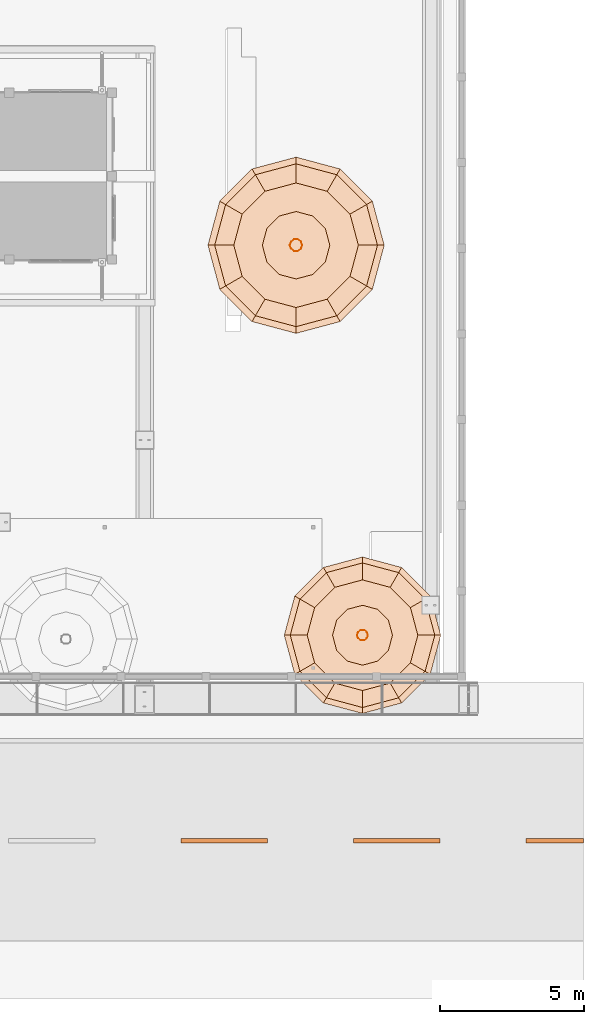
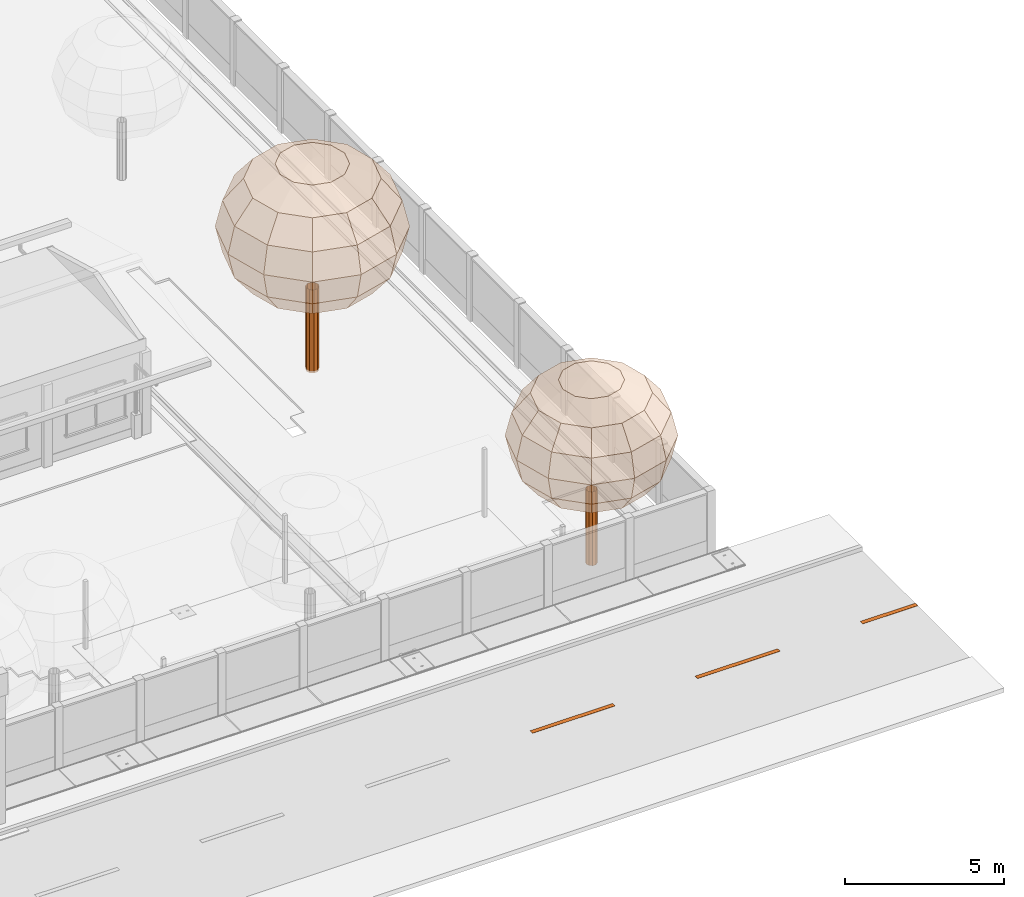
# One storey, part 163 of 177: 4 geographic elements, 3 proxies.
"""IFC4 building model written with IfcOpenShell, lengths in metres."""

from ifc_helpers import new_model, si_unit, origin, origin_with_axes, place, context, subcontext, project, spatial, triangles, element, save


model = new_model("IFC4")

# Units and contexts
model_context = context("Model", 3, precision=1e-05, world=origin_with_axes())
body_context = subcontext(model_context, "Body", "Model", "MODEL_VIEW")
ifc_project = project(units=[si_unit("LENGTHUNIT", "METRE"), si_unit("AREAUNIT", "SQUARE_METRE"), si_unit("VOLUMEUNIT", "CUBIC_METRE"), si_unit("PLANEANGLEUNIT", "RADIAN")], contexts=[model_context])

# Site, building, storey
site_placement = place(None, origin_with_axes())
site = spatial("IfcSite", under=ifc_project, at=site_placement, Name="Predio Los Mangos - Morales, San Martín", CompositionType="ELEMENT")
building_placement = place(site_placement, origin())
building = spatial("IfcBuilding", under=site, at=building_placement, Name="Hogar de Refugio Temporal", CompositionType="ELEMENT")
storey_placement = place(building_placement, origin())
storey = spatial("IfcBuildingStorey", under=building, at=storey_placement, Name="NIVEL 1 (NPT +0.00)", CompositionType="ELEMENT", Elevation=0.0)

# Proxies
proxy_1_placement = place(storey_placement, origin())
element("IfcBuildingElementProxy", 1, at=proxy_1_placement, inside=storey, Name="linea_carril", ObjectType="Losa deportiva y vía", PredefinedType="NOTDEFINED", context=body_context, shape_type="Tessellation", body=[
    triangles([(62.0, 12.22, 0.02), (65.0, 12.22, 0.02), (65.0, 12.38, 0.02), (62.0, 12.38, 0.02), (62.0, 12.22, 0.025), (65.0, 12.22, 0.025), (65.0, 12.38, 0.025), (62.0, 12.38, 0.025)], [[1, 4, 3], [1, 3, 2], [5, 6, 7], [5, 7, 8], [1, 2, 6], [1, 6, 5], [2, 3, 7], [2, 7, 6], [3, 4, 8], [3, 8, 7], [4, 1, 5], [4, 5, 8]]),
])
proxy_2_placement = place(storey_placement, origin())
element("IfcBuildingElementProxy", 2, at=proxy_2_placement, inside=storey, Name="linea_carril", ObjectType="Losa deportiva y vía", PredefinedType="NOTDEFINED", context=body_context, shape_type="Tessellation", body=[
    triangles([(68.0, 12.22, 0.02), (71.0, 12.22, 0.02), (71.0, 12.38, 0.02), (68.0, 12.38, 0.02), (68.0, 12.22, 0.025), (71.0, 12.22, 0.025), (71.0, 12.38, 0.025), (68.0, 12.38, 0.025)], [[1, 4, 3], [1, 3, 2], [5, 6, 7], [5, 7, 8], [1, 2, 6], [1, 6, 5], [2, 3, 7], [2, 7, 6], [3, 4, 8], [3, 8, 7], [4, 1, 5], [4, 5, 8]]),
])
proxy_3_placement = place(storey_placement, origin())
element("IfcBuildingElementProxy", 3, at=proxy_3_placement, inside=storey, Name="linea_carril", ObjectType="Losa deportiva y vía", PredefinedType="NOTDEFINED", context=body_context, shape_type="Tessellation", body=[
    triangles([(74.0, 12.22, 0.02), (76.0, 12.22, 0.02), (76.0, 12.38, 0.02), (74.0, 12.38, 0.02), (74.0, 12.22, 0.025), (76.0, 12.22, 0.025), (76.0, 12.38, 0.025), (74.0, 12.38, 0.025)], [[1, 4, 3], [1, 3, 2], [5, 6, 7], [5, 7, 8], [1, 2, 6], [1, 6, 5], [2, 3, 7], [2, 7, 6], [3, 4, 8], [3, 8, 7], [4, 1, 5], [4, 5, 8]]),
])

# Geographic elements
geographic_element_1_placement = place(storey_placement, origin())
element("IfcGeographicElement", 4, at=geographic_element_1_placement, inside=storey, Name="arbol_tronco", ObjectType="Árbol", PredefinedType="NOTDEFINED", context=body_context, shape_type="Tessellation", body=[
    triangles([(68.4992, 19.44, 0.0), (68.4631, 19.5512, 0.0), (68.3685, 19.62, 0.0), (68.2515, 19.62, 0.0), (68.1569, 19.5512, 0.0), (68.1208, 19.44, 0.0), (68.1569, 19.3288, 0.0), (68.2515, 19.26, 0.0), (68.3685, 19.26, 0.0), (68.4631, 19.3288, 0.0), (68.4992, 19.44, 2.8386), (68.4631, 19.5512, 2.8386), (68.3685, 19.62, 2.8386), (68.2515, 19.62, 2.8386), (68.1569, 19.5512, 2.8386), (68.1208, 19.44, 2.8386), (68.1569, 19.3288, 2.8386), (68.2515, 19.26, 2.8386), (68.3685, 19.26, 2.8386), (68.4631, 19.3288, 2.8386)], [[1, 2, 12], [2, 3, 13], [3, 4, 14], [4, 5, 15], [5, 6, 16], [6, 7, 17], [7, 8, 18], [8, 9, 19], [9, 10, 20], [10, 1, 11], [1, 12, 11], [2, 13, 12], [3, 14, 13], [4, 15, 14], [5, 16, 15], [6, 17, 16], [7, 18, 17], [8, 19, 18], [9, 20, 19], [10, 11, 20]]),
])
geographic_element_2_placement = place(storey_placement, origin())
element("IfcGeographicElement", 5, at=geographic_element_2_placement, inside=storey, Name="arbol_copa", ObjectType="Árbol", PredefinedType="NOTDEFINED", context=body_context, shape_type="Tessellation", body=[
    triangles([(68.31, 19.44, 7.191), (68.31, 19.44, 7.191), (68.31, 19.44, 7.191), (68.31, 19.44, 7.191), (68.31, 19.44, 7.191), (68.31, 19.44, 7.191), (68.31, 19.44, 7.191), (68.31, 19.44, 7.191), (68.31, 19.44, 7.191), (68.31, 19.44, 7.191), (68.31, 19.44, 7.191), (68.31, 19.44, 7.191), (69.351, 19.44, 7.015), (69.2115, 19.9605, 7.015), (68.8305, 20.3415, 7.015), (68.31, 20.481, 7.015), (67.7895, 20.3415, 7.015), (67.4085, 19.9605, 7.015), (67.269, 19.44, 7.015), (67.4085, 18.9195, 7.015), (67.7895, 18.5385, 7.015), (68.31, 18.399, 7.015), (68.8305, 18.5385, 7.015), (69.2115, 18.9195, 7.015), (70.2335, 19.44, 6.5138), (69.9758, 20.4018, 6.5138), (69.2718, 21.1058, 6.5138), (68.31, 21.3635, 6.5138), (67.3482, 21.1058, 6.5138), (66.6442, 20.4018, 6.5138), (66.3865, 19.44, 6.5138), (66.6442, 18.4782, 6.5138), (67.3482, 17.7742, 6.5138), (68.31, 17.5165, 6.5138), (69.2718, 17.7742, 6.5138), (69.9758, 18.4782, 6.5138), (70.8232, 19.44, 5.7636), (70.4865, 20.6966, 5.7636), (69.5666, 21.6165, 5.7636), (68.31, 21.9532, 5.7636), (67.0534, 21.6165, 5.7636), (66.1335, 20.6966, 5.7636), (65.7968, 19.44, 5.7636), (66.1335, 18.1834, 5.7636), (67.0534, 17.2635, 5.7636), (68.31, 16.9268, 5.7636), (69.5666, 17.2635, 5.7636), (70.4865, 18.1834, 5.7636), (71.0303, 19.44, 4.8788), (70.6658, 20.8001, 4.8788), (69.6701, 21.7958, 4.8788), (68.31, 22.1603, 4.8788), (66.9499, 21.7958, 4.8788), (65.9542, 20.8001, 4.8788), (65.5897, 19.44, 4.8788), (65.9542, 18.0799, 4.8788), (66.9499, 17.0842, 4.8788), (68.31, 16.7197, 4.8788), (69.6701, 17.0842, 4.8788), (70.6658, 18.0799, 4.8788), (70.8232, 19.44, 3.9939), (70.4865, 20.6966, 3.9939), (69.5666, 21.6165, 3.9939), (68.31, 21.9532, 3.9939), (67.0534, 21.6165, 3.9939), (66.1335, 20.6966, 3.9939), (65.7968, 19.44, 3.9939), (66.1335, 18.1834, 3.9939), (67.0534, 17.2635, 3.9939), (68.31, 16.9268, 3.9939), (69.5666, 17.2635, 3.9939), (70.4865, 18.1834, 3.9939), (70.2335, 19.44, 3.2438), (69.9758, 20.4018, 3.2438), (69.2718, 21.1058, 3.2438), (68.31, 21.3635, 3.2438), (67.3482, 21.1058, 3.2438), (66.6442, 20.4018, 3.2438), (66.3865, 19.44, 3.2438), (66.6442, 18.4782, 3.2438), (67.3482, 17.7742, 3.2438), (68.31, 17.5165, 3.2438), (69.2718, 17.7742, 3.2438), (69.9758, 18.4782, 3.2438), (69.351, 19.44, 2.7425), (69.2115, 19.9605, 2.7425), (68.8305, 20.3415, 2.7425), (68.31, 20.481, 2.7425), (67.7895, 20.3415, 2.7425), (67.4085, 19.9605, 2.7425), (67.269, 19.44, 2.7425), (67.4085, 18.9195, 2.7425), (67.7895, 18.5385, 2.7425), (68.31, 18.399, 2.7425), (68.8305, 18.5385, 2.7425), (69.2115, 18.9195, 2.7425), (68.31, 19.44, 2.5665), (68.31, 19.44, 2.5665), (68.31, 19.44, 2.5665), (68.31, 19.44, 2.5665), (68.31, 19.44, 2.5665), (68.31, 19.44, 2.5665), (68.31, 19.44, 2.5665), (68.31, 19.44, 2.5665), (68.31, 19.44, 2.5665), (68.31, 19.44, 2.5665), (68.31, 19.44, 2.5665), (68.31, 19.44, 2.5665)], [[1, 2, 14], [1, 14, 13], [2, 3, 15], [2, 15, 14], [3, 4, 16], [3, 16, 15], [4, 5, 17], [4, 17, 16], [5, 6, 18], [5, 18, 17], [6, 7, 19], [6, 19, 18], [7, 8, 20], [7, 20, 19], [8, 9, 21], [8, 21, 20], [9, 10, 22], [9, 22, 21], [10, 11, 23], [10, 23, 22], [11, 12, 24], [11, 24, 23], [12, 1, 13], [12, 13, 24], [13, 14, 26], [13, 26, 25], [14, 15, 27], [14, 27, 26], [15, 16, 28], [15, 28, 27], [16, 17, 29], [16, 29, 28], [17, 18, 30], [17, 30, 29], [18, 19, 31], [18, 31, 30], [19, 20, 32], [19, 32, 31], [20, 21, 33], [20, 33, 32], [21, 22, 34], [21, 34, 33], [22, 23, 35], [22, 35, 34], [23, 24, 36], [23, 36, 35], [24, 13, 25], [24, 25, 36], [25, 26, 38], [25, 38, 37], [26, 27, 39], [26, 39, 38], [27, 28, 40], [27, 40, 39], [28, 29, 41], [28, 41, 40], [29, 30, 42], [29, 42, 41], [30, 31, 43], [30, 43, 42], [31, 32, 44], [31, 44, 43], [32, 33, 45], [32, 45, 44], [33, 34, 46], [33, 46, 45], [34, 35, 47], [34, 47, 46], [35, 36, 48], [35, 48, 47], [36, 25, 37], [36, 37, 48], [37, 38, 50], [37, 50, 49], [38, 39, 51], [38, 51, 50], [39, 40, 52], [39, 52, 51], [40, 41, 53], [40, 53, 52], [41, 42, 54], [41, 54, 53], [42, 43, 55], [42, 55, 54], [43, 44, 56], [43, 56, 55], [44, 45, 57], [44, 57, 56], [45, 46, 58], [45, 58, 57], [46, 47, 59], [46, 59, 58], [47, 48, 60], [47, 60, 59], [48, 37, 49], [48, 49, 60], [49, 50, 62], [49, 62, 61], [50, 51, 63], [50, 63, 62], [51, 52, 64], [51, 64, 63], [52, 53, 65], [52, 65, 64], [53, 54, 66], [53, 66, 65], [54, 55, 67], [54, 67, 66], [55, 56, 68], [55, 68, 67], [56, 57, 69], [56, 69, 68], [57, 58, 70], [57, 70, 69], [58, 59, 71], [58, 71, 70], [59, 60, 72], [59, 72, 71], [60, 49, 61], [60, 61, 72], [61, 62, 74], [61, 74, 73], [62, 63, 75], [62, 75, 74], [63, 64, 76], [63, 76, 75], [64, 65, 77], [64, 77, 76], [65, 66, 78], [65, 78, 77], [66, 67, 79], [66, 79, 78], [67, 68, 80], [67, 80, 79], [68, 69, 81], [68, 81, 80], [69, 70, 82], [69, 82, 81], [70, 71, 83], [70, 83, 82], [71, 72, 84], [71, 84, 83], [72, 61, 73], [72, 73, 84], [73, 74, 86], [73, 86, 85], [74, 75, 87], [74, 87, 86], [75, 76, 88], [75, 88, 87], [76, 77, 89], [76, 89, 88], [77, 78, 90], [77, 90, 89], [78, 79, 91], [78, 91, 90], [79, 80, 92], [79, 92, 91], [80, 81, 93], [80, 93, 92], [81, 82, 94], [81, 94, 93], [82, 83, 95], [82, 95, 94], [83, 84, 96], [83, 96, 95], [84, 73, 85], [84, 85, 96], [85, 86, 98], [85, 98, 97], [86, 87, 99], [86, 99, 98], [87, 88, 100], [87, 100, 99], [88, 89, 101], [88, 101, 100], [89, 90, 102], [89, 102, 101], [90, 91, 103], [90, 103, 102], [91, 92, 104], [91, 104, 103], [92, 93, 105], [92, 105, 104], [93, 94, 106], [93, 106, 105], [94, 95, 107], [94, 107, 106], [95, 96, 108], [95, 108, 107], [96, 85, 97], [96, 97, 108]]),
])
geographic_element_3_placement = place(storey_placement, origin())
element("IfcGeographicElement", 6, at=geographic_element_3_placement, inside=storey, Name="arbol_tronco", ObjectType="Árbol", PredefinedType="NOTDEFINED", context=body_context, shape_type="Tessellation", body=[
    triangles([(66.2131, 33.0, 0.0), (66.1724, 33.1253, 0.0), (66.0659, 33.2027, 0.0), (65.9341, 33.2027, 0.0), (65.8276, 33.1253, 0.0), (65.7869, 33.0, 0.0), (65.8276, 32.8747, 0.0), (65.9341, 32.7973, 0.0), (66.0659, 32.7973, 0.0), (66.1724, 32.8747, 0.0), (66.2131, 33.0, 3.1967), (66.1724, 33.1253, 3.1967), (66.0659, 33.2027, 3.1967), (65.9341, 33.2027, 3.1967), (65.8276, 33.1253, 3.1967), (65.7869, 33.0, 3.1967), (65.8276, 32.8747, 3.1967), (65.9341, 32.7973, 3.1967), (66.0659, 32.7973, 3.1967), (66.1724, 32.8747, 3.1967)], [[1, 2, 12], [2, 3, 13], [3, 4, 14], [4, 5, 15], [5, 6, 16], [6, 7, 17], [7, 8, 18], [8, 9, 19], [9, 10, 20], [10, 1, 11], [1, 12, 11], [2, 13, 12], [3, 14, 13], [4, 15, 14], [5, 16, 15], [6, 17, 16], [7, 18, 17], [8, 19, 18], [9, 20, 19], [10, 11, 20]]),
])
geographic_element_4_placement = place(storey_placement, origin())
element("IfcGeographicElement", 7, at=geographic_element_4_placement, inside=storey, Name="arbol_copa", ObjectType="Árbol", PredefinedType="NOTDEFINED", context=body_context, shape_type="Tessellation", body=[
    triangles([(66.0, 33.0, 8.0982), (66.0, 33.0, 8.0982), (66.0, 33.0, 8.0982), (66.0, 33.0, 8.0982), (66.0, 33.0, 8.0982), (66.0, 33.0, 8.0982), (66.0, 33.0, 8.0982), (66.0, 33.0, 8.0982), (66.0, 33.0, 8.0982), (66.0, 33.0, 8.0982), (66.0, 33.0, 8.0982), (66.0, 33.0, 8.0982), (67.1723, 33.0, 7.9), (67.0153, 33.5862, 7.9), (66.5862, 34.0153, 7.9), (66.0, 34.1723, 7.9), (65.4138, 34.0153, 7.9), (64.9847, 33.5862, 7.9), (64.8277, 33.0, 7.9), (64.9847, 32.4138, 7.9), (65.4138, 31.9847, 7.9), (66.0, 31.8277, 7.9), (66.5862, 31.9847, 7.9), (67.0153, 32.4138, 7.9), (68.1662, 33.0, 7.3356), (67.876, 34.0831, 7.3356), (67.0831, 34.876, 7.3356), (66.0, 35.1662, 7.3356), (64.9169, 34.876, 7.3356), (64.124, 34.0831, 7.3356), (63.8338, 33.0, 7.3356), (64.124, 31.9169, 7.3356), (64.9169, 31.124, 7.3356), (66.0, 30.8338, 7.3356), (67.0831, 31.124, 7.3356), (67.876, 31.9169, 7.3356), (68.8303, 33.0, 6.4908), (68.4511, 34.4151, 6.4908), (67.4151, 35.4511, 6.4908), (66.0, 35.8303, 6.4908), (64.5849, 35.4511, 6.4908), (63.5489, 34.4151, 6.4908), (63.1697, 33.0, 6.4908), (63.5489, 31.5849, 6.4908), (64.5849, 30.5489, 6.4908), (66.0, 30.1697, 6.4908), (67.4151, 30.5489, 6.4908), (68.4511, 31.5849, 6.4908), (69.0635, 33.0, 5.4943), (68.653, 34.5317, 5.4943), (67.5317, 35.653, 5.4943), (66.0, 36.0635, 5.4943), (64.4683, 35.653, 5.4943), (63.347, 34.5317, 5.4943), (62.9365, 33.0, 5.4943), (63.347, 31.4683, 5.4943), (64.4683, 30.347, 5.4943), (66.0, 29.9365, 5.4943), (67.5317, 30.347, 5.4943), (68.653, 31.4683, 5.4943), (68.8303, 33.0, 4.4978), (68.4511, 34.4151, 4.4978), (67.4151, 35.4511, 4.4978), (66.0, 35.8303, 4.4978), (64.5849, 35.4511, 4.4978), (63.5489, 34.4151, 4.4978), (63.1697, 33.0, 4.4978), (63.5489, 31.5849, 4.4978), (64.5849, 30.5489, 4.4978), (66.0, 30.1697, 4.4978), (67.4151, 30.5489, 4.4978), (68.4511, 31.5849, 4.4978), (68.1662, 33.0, 3.653), (67.876, 34.0831, 3.653), (67.0831, 34.876, 3.653), (66.0, 35.1662, 3.653), (64.9169, 34.876, 3.653), (64.124, 34.0831, 3.653), (63.8338, 33.0, 3.653), (64.124, 31.9169, 3.653), (64.9169, 31.124, 3.653), (66.0, 30.8338, 3.653), (67.0831, 31.124, 3.653), (67.876, 31.9169, 3.653), (67.1723, 33.0, 3.0885), (67.0153, 33.5862, 3.0885), (66.5862, 34.0153, 3.0885), (66.0, 34.1723, 3.0885), (65.4138, 34.0153, 3.0885), (64.9847, 33.5862, 3.0885), (64.8277, 33.0, 3.0885), (64.9847, 32.4138, 3.0885), (65.4138, 31.9847, 3.0885), (66.0, 31.8277, 3.0885), (66.5862, 31.9847, 3.0885), (67.0153, 32.4138, 3.0885), (66.0, 33.0, 2.8903), (66.0, 33.0, 2.8903), (66.0, 33.0, 2.8903), (66.0, 33.0, 2.8903), (66.0, 33.0, 2.8903), (66.0, 33.0, 2.8903), (66.0, 33.0, 2.8903), (66.0, 33.0, 2.8903), (66.0, 33.0, 2.8903), (66.0, 33.0, 2.8903), (66.0, 33.0, 2.8903), (66.0, 33.0, 2.8903)], [[1, 2, 14], [1, 14, 13], [2, 3, 15], [2, 15, 14], [3, 4, 16], [3, 16, 15], [4, 5, 17], [4, 17, 16], [5, 6, 18], [5, 18, 17], [6, 7, 19], [6, 19, 18], [7, 8, 20], [7, 20, 19], [8, 9, 21], [8, 21, 20], [9, 10, 22], [9, 22, 21], [10, 11, 23], [10, 23, 22], [11, 12, 24], [11, 24, 23], [12, 1, 13], [12, 13, 24], [13, 14, 26], [13, 26, 25], [14, 15, 27], [14, 27, 26], [15, 16, 28], [15, 28, 27], [16, 17, 29], [16, 29, 28], [17, 18, 30], [17, 30, 29], [18, 19, 31], [18, 31, 30], [19, 20, 32], [19, 32, 31], [20, 21, 33], [20, 33, 32], [21, 22, 34], [21, 34, 33], [22, 23, 35], [22, 35, 34], [23, 24, 36], [23, 36, 35], [24, 13, 25], [24, 25, 36], [25, 26, 38], [25, 38, 37], [26, 27, 39], [26, 39, 38], [27, 28, 40], [27, 40, 39], [28, 29, 41], [28, 41, 40], [29, 30, 42], [29, 42, 41], [30, 31, 43], [30, 43, 42], [31, 32, 44], [31, 44, 43], [32, 33, 45], [32, 45, 44], [33, 34, 46], [33, 46, 45], [34, 35, 47], [34, 47, 46], [35, 36, 48], [35, 48, 47], [36, 25, 37], [36, 37, 48], [37, 38, 50], [37, 50, 49], [38, 39, 51], [38, 51, 50], [39, 40, 52], [39, 52, 51], [40, 41, 53], [40, 53, 52], [41, 42, 54], [41, 54, 53], [42, 43, 55], [42, 55, 54], [43, 44, 56], [43, 56, 55], [44, 45, 57], [44, 57, 56], [45, 46, 58], [45, 58, 57], [46, 47, 59], [46, 59, 58], [47, 48, 60], [47, 60, 59], [48, 37, 49], [48, 49, 60], [49, 50, 62], [49, 62, 61], [50, 51, 63], [50, 63, 62], [51, 52, 64], [51, 64, 63], [52, 53, 65], [52, 65, 64], [53, 54, 66], [53, 66, 65], [54, 55, 67], [54, 67, 66], [55, 56, 68], [55, 68, 67], [56, 57, 69], [56, 69, 68], [57, 58, 70], [57, 70, 69], [58, 59, 71], [58, 71, 70], [59, 60, 72], [59, 72, 71], [60, 49, 61], [60, 61, 72], [61, 62, 74], [61, 74, 73], [62, 63, 75], [62, 75, 74], [63, 64, 76], [63, 76, 75], [64, 65, 77], [64, 77, 76], [65, 66, 78], [65, 78, 77], [66, 67, 79], [66, 79, 78], [67, 68, 80], [67, 80, 79], [68, 69, 81], [68, 81, 80], [69, 70, 82], [69, 82, 81], [70, 71, 83], [70, 83, 82], [71, 72, 84], [71, 84, 83], [72, 61, 73], [72, 73, 84], [73, 74, 86], [73, 86, 85], [74, 75, 87], [74, 87, 86], [75, 76, 88], [75, 88, 87], [76, 77, 89], [76, 89, 88], [77, 78, 90], [77, 90, 89], [78, 79, 91], [78, 91, 90], [79, 80, 92], [79, 92, 91], [80, 81, 93], [80, 93, 92], [81, 82, 94], [81, 94, 93], [82, 83, 95], [82, 95, 94], [83, 84, 96], [83, 96, 95], [84, 73, 85], [84, 85, 96], [85, 86, 98], [85, 98, 97], [86, 87, 99], [86, 99, 98], [87, 88, 100], [87, 100, 99], [88, 89, 101], [88, 101, 100], [89, 90, 102], [89, 102, 101], [90, 91, 103], [90, 103, 102], [91, 92, 104], [91, 104, 103], [92, 93, 105], [92, 105, 104], [93, 94, 106], [93, 106, 105], [94, 95, 107], [94, 107, 106], [95, 96, 108], [95, 108, 107], [96, 85, 97], [96, 97, 108]]),
])

save(model, "model.ifc")
